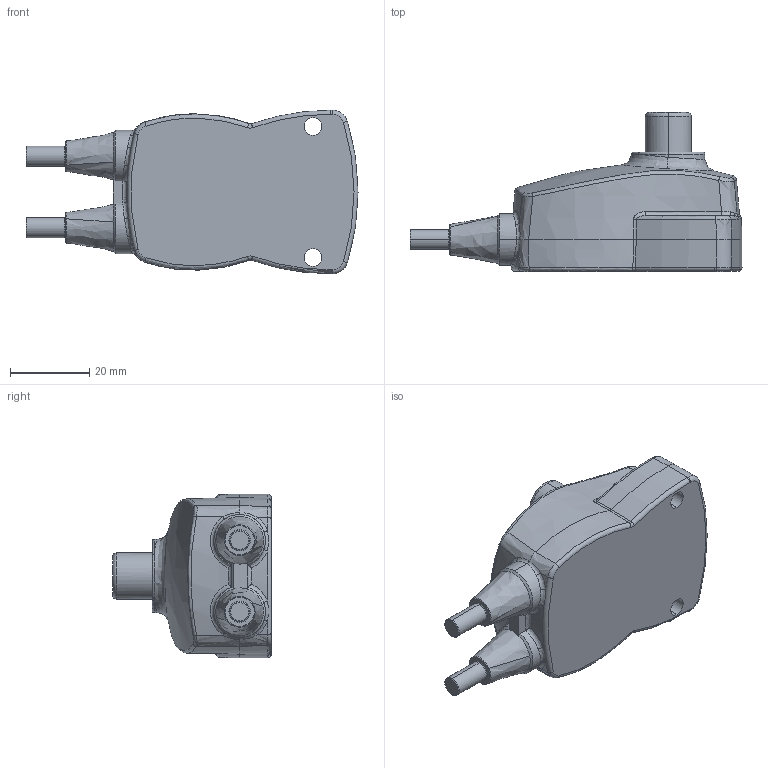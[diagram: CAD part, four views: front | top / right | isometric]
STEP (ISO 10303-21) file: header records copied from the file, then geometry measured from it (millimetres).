
FILE_DESCRIPTION (( 'STEP AP203' ), '1' );
FILE_NAME ('TES.STEP', '2014-01-16T02:55:10', ( 'stanley' ), ( '' ), 'SwSTEP 2.0', 'SolidWorks 2010', '' );
FILE_SCHEMA (( 'CONFIG_CONTROL_DESIGN' ));
Length unit declared in the file: millimetre
Products named in the file (1): TES
Bounding box: 83.57 x 40 x 41.17 mm (x, y, z)
Volume: 53235.3 mm3; surface area: 10838.2 mm2
Topology: 1 solids, 3 shells, 176 faces, 407 edges, 240 vertices
Faces by surface type: bspline 71, torus 35, cylinder 28, cone 23, plane 19
Entity records: 15561 total; most frequent: CARTESIAN_POINT 11938, ORIENTED_EDGE 814, DIRECTION 628, EDGE_CURVE 407, AXIS2_PLACEMENT_3D 296, VERTEX_POINT 240, CIRCLE 190, EDGE_LOOP 183
